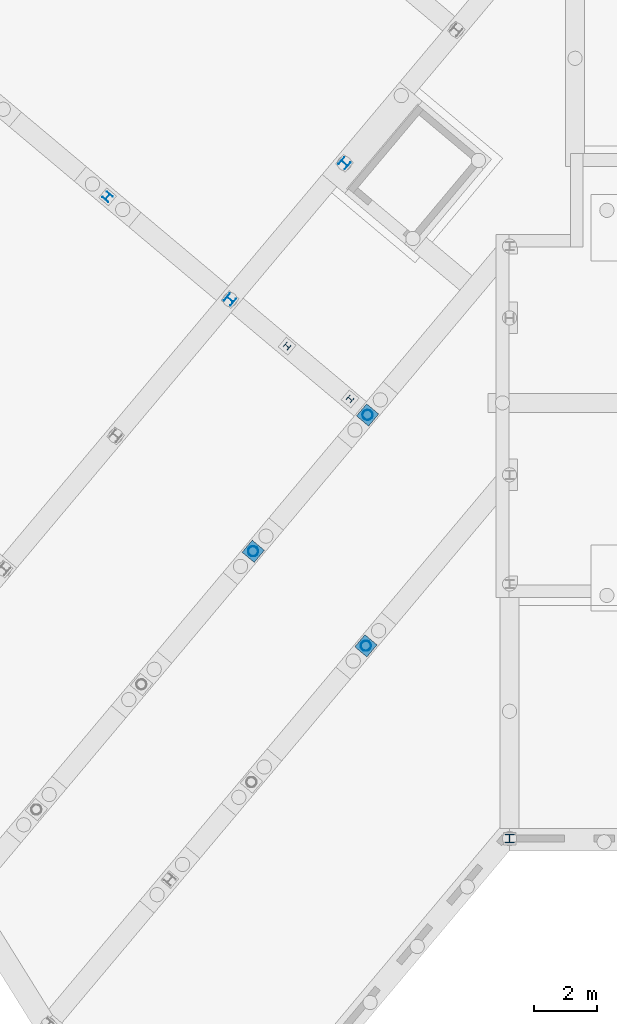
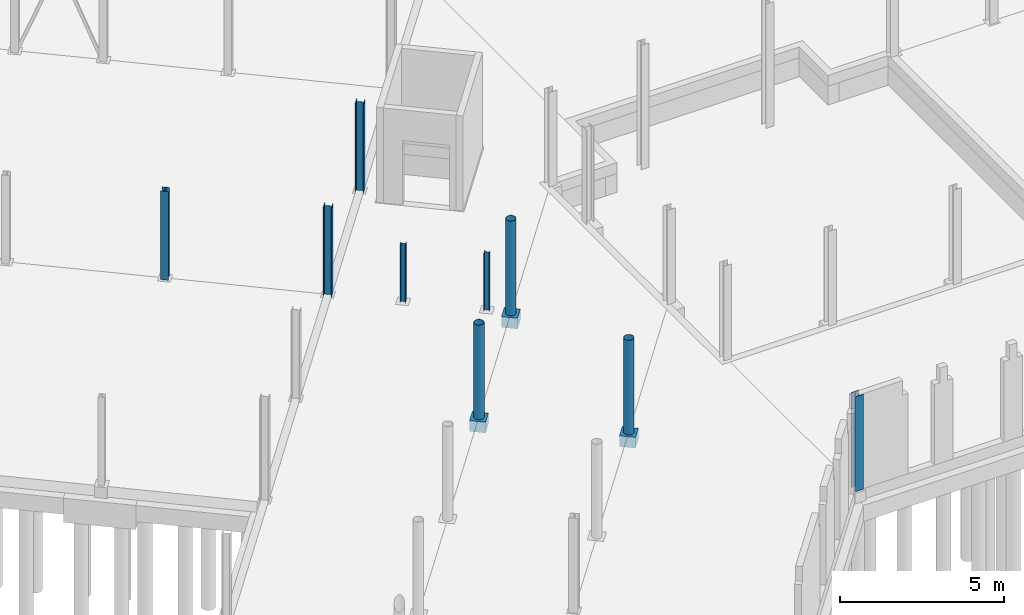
# One storey, part 7 of 26: 12 columns.
"""IFC2X3 building model written with IfcOpenShell, lengths in millimetres."""

import ifcopenshell
import ifcopenshell.guid

model = None  # the IFC model being written
_history = None  # IfcOwnerHistory: only IFC2X3 demands one
_inside = {}  # id of a spatial element -> (the spatial element, [elements in it])
_under = {}  # id of a project, library or spatial element -> (it, [spatial elements below it])
_declared = {}  # id of a project -> (the project, [libraries it declares])
_typed = {}  # id of a type object -> (the type object, [elements of that type])
_made_of = {}  # id of a material, layer set ... -> (it, [elements and type objects made of it])


def new_model(schema):
    """Start an empty IFC model of exactly this schema.

    Asked for "IFC4X3", IfcOpenShell would pick the latest addendum, in which some entities
    have other attributes; the version numbers below select the first issue.
    IFC2X3 requires an IfcOwnerHistory on every rooted entity: one is made here for all.
    """
    global model, _history
    if schema == "IFC4X3":
        model = ifcopenshell.file(schema_version=(4, 3, 0, 0))
    else:
        model = ifcopenshell.file(schema=schema)
    _inside.clear()
    _under.clear()
    _declared.clear()
    _typed.clear()
    _made_of.clear()
    _history = None
    if model.schema == "IFC2X3":
        org = make("IfcOrganization", Name="unknown")
        user = make(
            "IfcPersonAndOrganization",
            ThePerson=make("IfcPerson", FamilyName="unknown"),
            TheOrganization=org,
        )
        app = make(
            "IfcApplication",
            ApplicationDeveloper=org,
            Version="unknown",
            ApplicationFullName="unknown",
            ApplicationIdentifier="unknown",
        )
        _history = make(
            "IfcOwnerHistory",
            OwningUser=user,
            OwningApplication=app,
            ChangeAction="ADDED",
            CreationDate=0,
        )
    return model


def make(cls, **values):
    """One entity of the class cls with the attributes given. An attribute that is None is left unset."""
    return model.create_entity(
        cls, **{name: value for name, value in values.items() if value is not None}
    )


def entity(cls, *values):
    """Any entity or typed value of the class cls, its attributes in the order of the schema. None: left unset."""
    e = model.create_entity(cls)
    for i, value in enumerate(values):
        if value is not None:
            e[i] = value
    return e


def rooted(cls, **values):
    """An entity with a GlobalId (a new one), such as an element, a storey or a relation."""
    return make(cls, GlobalId=ifcopenshell.guid.new(), OwnerHistory=_history, **values)


def si_unit(unit_type, name, prefix=None):
    """IfcSIUnit, for example si_unit("LENGTHUNIT", "METRE", prefix="MILLI")."""
    return make("IfcSIUnit", UnitType=unit_type, Prefix=prefix, Name=name)


def converted_unit(unit_type, name, factor, base, dimensions=None, offset=None):
    """IfcConversionBasedUnit, such as the inch: factor (a typed value) times the base unit."""
    return make(
        "IfcConversionBasedUnit"
        if offset is None
        else "IfcConversionBasedUnitWithOffset",
        ConversionOffset=offset,
        Dimensions=None
        if dimensions is None
        else entity("IfcDimensionalExponents", *dimensions),
        UnitType=unit_type,
        Name=name,
        ConversionFactor=make(
            "IfcMeasureWithUnit", ValueComponent=factor, UnitComponent=base
        ),
    )


def derived_unit(unit_type, elements):
    """IfcDerivedUnit: a product of units, each with its exponent."""
    return make(
        "IfcDerivedUnit",
        Elements=[
            make("IfcDerivedUnitElement", Unit=unit, Exponent=power)
            for unit, power in elements
        ],
        UnitType=unit_type,
    )


def assignment(units):
    """IfcUnitAssignment: the units of a project."""
    return None if units is None else make("IfcUnitAssignment", Units=units)


def point(xyz):
    """IfcCartesianPoint."""
    return None if xyz is None else make("IfcCartesianPoint", Coordinates=xyz)


def direction(xyz):
    """IfcDirection."""
    return None if xyz is None else make("IfcDirection", DirectionRatios=xyz)


def frame(location, z_axis=None, x_axis=None):
    """IfcAxis2Placement3D, a coordinate frame: its origin and axes. An axis left out is left unset."""
    return make(
        "IfcAxis2Placement3D",
        Location=point(location),
        Axis=direction(z_axis),
        RefDirection=direction(x_axis),
    )


def frame_2d(location, x_axis=None):
    """IfcAxis2Placement2D, a coordinate frame in the plane: its origin and x axis."""
    return make(
        "IfcAxis2Placement2D", Location=point(location), RefDirection=direction(x_axis)
    )


def origin():
    """The frame at (0, 0, 0) with its axes left unset."""
    return frame((0.0, 0.0, 0.0))


def origin_2d_with_axis():
    """The frame at (0, 0) in the plane with the x axis (1, 0) written out."""
    return frame_2d((0.0, 0.0), x_axis=(1.0, 0.0))


def place(relative_to, where):
    """IfcLocalPlacement: puts the frame where relative to a parent placement (None: the world)."""
    return make(
        "IfcLocalPlacement", PlacementRelTo=relative_to, RelativePlacement=where
    )


def context(
    kind, dimensions, precision=None, world=None, true_north=None, identifier=None
):
    """IfcGeometricRepresentationContext, for example the 3D "Model" context."""
    return make(
        "IfcGeometricRepresentationContext",
        ContextIdentifier=identifier,
        ContextType=kind,
        CoordinateSpaceDimension=dimensions,
        Precision=precision,
        WorldCoordinateSystem=world,
        TrueNorth=true_north,
    )


def subcontext(parent, identifier, kind, view, scale=None):
    """IfcGeometricRepresentationSubContext, for example "Body" below "Model"."""
    return make(
        "IfcGeometricRepresentationSubContext",
        ContextIdentifier=identifier,
        ContextType=kind,
        ParentContext=parent,
        TargetScale=scale,
        TargetView=view,
    )


def project(units=None, contexts=None):
    """IfcProject with its units and contexts."""
    return rooted(
        "IfcProject",
        Name="project",
        RepresentationContexts=contexts,
        UnitsInContext=assignment(units),
    )


def spatial(cls, under=None, at=None, **own):
    """A site, building, storey or space (cls), placed at a placement, below another one or the project."""
    s = rooted(cls, ObjectPlacement=at, **own)
    if under is not None:
        _under.setdefault(under.id(), (under, []))[1].append(s)
    return s


def profile(cls, at=None, kind="AREA", **sizes):
    """A parametric profile (cls). Its sizes go by their IFC names, for example OverallWidth=200.0."""
    return make(cls, ProfileType=kind, Position=at, **sizes)


def rectangle(**sizes):
    """IfcRectangleProfileDef."""
    return profile("IfcRectangleProfileDef", **sizes)


def hollow_circle(**sizes):
    """IfcCircleHollowProfileDef."""
    return profile("IfcCircleHollowProfileDef", **sizes)


def i_section(**sizes):
    """IfcIShapeProfileDef."""
    return profile("IfcIShapeProfileDef", **sizes)


def extrude(swept, where, along, depth):
    """IfcExtrudedAreaSolid: the profile swept, set in the frame where, extruded along a direction by depth."""
    return make(
        "IfcExtrudedAreaSolid",
        SweptArea=swept,
        Position=where,
        ExtrudedDirection=direction(along),
        Depth=depth,
    )


def shape(context_of_items, identifier, shape_type, items):
    """IfcShapeRepresentation: the items that make up one representation, for example the "Body"."""
    return make(
        "IfcShapeRepresentation",
        ContextOfItems=context_of_items,
        RepresentationIdentifier=identifier,
        RepresentationType=shape_type,
        Items=items,
    )


def source(mapping_origin, context_of_items, identifier, shape_type, items):
    """IfcRepresentationMap: a shape defined once, which mapped items show again and again."""
    return make(
        "IfcRepresentationMap",
        MappingOrigin=mapping_origin,
        MappedRepresentation=shape(context_of_items, identifier, shape_type, items),
    )


def transform(
    local_origin,
    x_axis=None,
    y_axis=None,
    z_axis=None,
    scale=None,
    scale2=None,
    scale3=None,
    uniform=True,
):
    """IfcCartesianTransformationOperator3D, or its non-uniform kind. x_axis, y_axis, z_axis: its Axis1, 2, 3."""
    if uniform:
        return make(
            "IfcCartesianTransformationOperator3D",
            Axis1=direction(x_axis),
            Axis2=direction(y_axis),
            LocalOrigin=point(local_origin),
            Scale=scale,
            Axis3=direction(z_axis),
        )
    return make(
        "IfcCartesianTransformationOperator3DnonUniform",
        Axis1=direction(x_axis),
        Axis2=direction(y_axis),
        LocalOrigin=point(local_origin),
        Scale=scale,
        Axis3=direction(z_axis),
        Scale2=scale2,
        Scale3=scale3,
    )


def mapped(mapping_source, mapping_target):
    """IfcMappedItem: shows the shape of a source again, moved by a transform."""
    return make(
        "IfcMappedItem", MappingSource=mapping_source, MappingTarget=mapping_target
    )


def material(Name=None, Category=None):
    """IfcMaterial."""
    return make("IfcMaterial", Name=Name, Category=Category)


def made_of(thing, what):
    """Note that an element or type object is made of a material, layer set ...; save() writes the relation."""
    if what is not None:
        _made_of.setdefault(what.id(), (what, []))[1].append(thing)
    return thing


def type_object(cls, material=None, **own):
    """A type object (cls), such as IfcWallType, which elements share."""
    return made_of(rooted(cls, **own), material)


def type_shapes(of_type, sources):
    """Give a type object the sources (RepresentationMaps) that its elements show as mapped items."""
    of_type.RepresentationMaps = sources


def element(
    cls,
    number,
    at=None,
    inside=None,
    cuts=None,
    type_object=None,
    material=None,
    context=None,
    identifier="Body",
    shape_type=None,
    held_by="IfcProductDefinitionShape",
    body=None,
    shapes=None,
    **own,
):
    """One element of the class cls, such as IfcWall. Its Tag is "e" and its number.

    at: its placement. inside: the storey or other place that contains it. cuts: it is an
    opening in that element (IfcRelVoidsElement). A single representation is given by context,
    identifier, shape_type and body (its items); several are given by shapes. held_by: the class
    of the entity that holds the representations. save() writes the other relations.
    """
    e = rooted(cls, Tag="e%d" % number, ObjectPlacement=at, **own)
    if body is not None:
        shapes = [shape(context, identifier, shape_type, body)]
    if shapes is not None:
        e.Representation = make(held_by, Representations=shapes)
    if inside is not None:
        _inside.setdefault(inside.id(), (inside, []))[1].append(e)
    if cuts is not None:
        rooted(
            "IfcRelVoidsElement", RelatingBuildingElement=cuts, RelatedOpeningElement=e
        )
    if type_object is not None:
        _typed.setdefault(type_object.id(), (type_object, []))[1].append(e)
    return made_of(e, material)


def aggregate(whole, parts):
    """IfcRelAggregates: a whole, such as a stair, and the parts it consists of."""
    return rooted("IfcRelAggregates", RelatingObject=whole, RelatedObjects=parts)


def save(model, path):
    """Write the relations noted so far, then the file.

    IfcRelAggregates (storeys below a building ...), IfcRelContainedInSpatialStructure (elements
    in a storey), IfcRelDefinesByType, IfcRelAssociatesMaterial and IfcRelDeclares: one each for
    every whole, place, type object, material and project.
    """
    for whole, parts in _under.values():
        aggregate(whole, parts)
    for where, things in _inside.values():
        rooted(
            "IfcRelContainedInSpatialStructure",
            RelatedElements=things,
            RelatingStructure=where,
        )
    for kind, things in _typed.values():
        rooted("IfcRelDefinesByType", RelatedObjects=things, RelatingType=kind)
    for what, things in _made_of.values():
        rooted("IfcRelAssociatesMaterial", RelatedObjects=things, RelatingMaterial=what)
    for by, libraries in _declared.values():
        rooted("IfcRelDeclares", RelatingContext=by, RelatedDefinitions=libraries)
    model.write(path)


model = new_model("IFC2X3")

# Units and contexts
model_context = context("Model", 3, precision=0.01, world=origin(), true_north=direction((6.123031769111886e-17, 1.0)))
body_context = subcontext(model_context, "Body", "Model", "MODEL_VIEW")
ifc_project = project(units=[si_unit("LENGTHUNIT", "METRE", prefix="MILLI"), si_unit("AREAUNIT", "SQUARE_METRE"), si_unit("VOLUMEUNIT", "CUBIC_METRE"), derived_unit("MASSDENSITYUNIT", [(si_unit("MASSUNIT", "GRAM", prefix="KILO"), 1), (si_unit("LENGTHUNIT", "METRE"), -3)]), si_unit("MASSUNIT", "GRAM", prefix="KILO"), converted_unit("PLANEANGLEUNIT", "DEGREE", entity("IfcPlaneAngleMeasure", 0.017453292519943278), si_unit("PLANEANGLEUNIT", "RADIAN"), dimensions=[0, 0, 0, 0, 0, 0, 0])], contexts=[model_context])

# Site, building, storey
site_placement = place(None, origin())
site = spatial("IfcSite", under=ifc_project, at=site_placement, Name="Default", CompositionType="ELEMENT")
building_placement = place(site_placement, origin())
building = spatial("IfcBuilding", under=site, at=building_placement, Name="AT constructie", CompositionType="ELEMENT")
storey_placement = place(building_placement, origin())
storey = spatial("IfcBuildingStorey", under=building, at=storey_placement, Name="00 begane grond", CompositionType="ELEMENT", Elevation=-1.0828671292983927e-12)

# Columns
ifc_material_1 = material(Name="h2_staal_S355")
column_type_1 = type_object("IfcColumnType", Name="kolom_gen_HEA280", PredefinedType="COLUMN", material=ifc_material_1)
shared_shape_1 = source(origin(), body_context, "Body", "SweptSolid", [
    extrude(i_section(OverallWidth=280.0000000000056, OverallDepth=269.99999999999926, WebThickness=7.999999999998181, FlangeThickness=12.99999999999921, FilletRadius=24.0, at=frame_2d((0.0, -2.1600499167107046e-12), x_axis=(1.0, 0.0))), frame((41146.87463111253, 11772.543508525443, -50.0)), (0.0, 0.0, 1.0), 3544.000000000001),
])
type_shapes(column_type_1, [shared_shape_1])
column_1_placement = place(storey_placement, origin())
element("IfcColumn", 1, at=column_1_placement, inside=storey, type_object=column_type_1, material=ifc_material_1, Name="NLRS_28_SC_TLB_kolom HEA_gen_AT:kolom_gen_HEA280", ObjectType="NLRS_28_SC_TLB_kolom HEA_gen_AT:kolom_gen_HEA280", context=body_context, shape_type="MappedRepresentation", body=[
    mapped(shared_shape_1, transform((0.0, 0.0, 0.0), scale=1.0)),
])
column_type_2 = type_object("IfcColumnType", Name="kolom_gen_ø323.9x8", PredefinedType="COLUMN", material=ifc_material_1)
shared_shape_2 = source(origin(), body_context, "Body", "SweptSolid", [
    extrude(hollow_circle(Radius=161.95, WallThickness=8.0, at=origin_2d_with_axis()), frame((36605.484880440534, 17864.601907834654, -50.0), z_axis=(0.0, 0.0, 1.0), x_axis=(-0.6427876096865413, -0.7660444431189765, 0.0)), (0.0, 0.0, 1.0), 3529.0000000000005),
])
type_shapes(column_type_2, [shared_shape_2])
column_2_placement = place(storey_placement, origin())
element("IfcColumn", 2, at=column_2_placement, inside=storey, type_object=column_type_2, material=ifc_material_1, Name="NLRS_28_SC_TLB_kolom buis_gen_AT:kolom_gen_ø323.9x8", ObjectType="NLRS_28_SC_TLB_kolom buis_gen_AT:kolom_gen_ø323.9x8", context=body_context, shape_type="MappedRepresentation", body=[
    mapped(shared_shape_2, transform((0.0, 0.0, 0.0), scale=1.0)),
])
column_type_3 = type_object("IfcColumnType", Name="kolom_gen_ø323.9x8", PredefinedType="COLUMN", material=ifc_material_1)
shared_shape_3 = source(origin(), body_context, "Body", "SweptSolid", [
    extrude(hollow_circle(Radius=161.95, WallThickness=8.0, at=origin_2d_with_axis()), frame((33043.37821993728, 20853.56429287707, -50.0), z_axis=(0.0, 0.0, 1.0), x_axis=(0.642787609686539, 0.7660444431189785, 0.0)), (0.0, 0.0, 1.0), 3528.9999999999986),
])
type_shapes(column_type_3, [shared_shape_3])
column_3_placement = place(storey_placement, origin())
element("IfcColumn", 3, at=column_3_placement, inside=storey, type_object=column_type_3, material=ifc_material_1, Name="NLRS_28_SC_TLB_kolom buis_gen_AT:kolom_gen_ø323.9x8", ObjectType="NLRS_28_SC_TLB_kolom buis_gen_AT:kolom_gen_ø323.9x8", context=body_context, shape_type="MappedRepresentation", body=[
    mapped(shared_shape_3, transform((0.0, 0.0, 0.0), scale=1.0)),
])
column_type_4 = type_object("IfcColumnType", Name="kolom_gen_ø323.9x8", PredefinedType="COLUMN", material=ifc_material_1)
shared_shape_4 = source(origin(), body_context, "Body", "SweptSolid", [
    extrude(hollow_circle(Radius=161.95, WallThickness=8.0, at=origin_2d_with_axis()), frame((36659.05852442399, 25162.564285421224, -50.0), z_axis=(0.0, 0.0, 1.0), x_axis=(0.642787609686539, 0.7660444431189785, 0.0)), (0.0, 0.0, 1.0), 3528.9999999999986),
])
type_shapes(column_type_4, [shared_shape_4])
column_4_placement = place(storey_placement, origin())
element("IfcColumn", 4, at=column_4_placement, inside=storey, type_object=column_type_4, material=ifc_material_1, Name="NLRS_28_SC_TLB_kolom buis_gen_AT:kolom_gen_ø323.9x8", ObjectType="NLRS_28_SC_TLB_kolom buis_gen_AT:kolom_gen_ø323.9x8", context=body_context, shape_type="MappedRepresentation", body=[
    mapped(shared_shape_4, transform((0.0, 0.0, 0.0), scale=1.0)),
])
column_type_5 = type_object("IfcColumnType", Name="kolom_gen_HEA280", PredefinedType="COLUMN", material=ifc_material_1)
shared_shape_5 = source(origin(), body_context, "Body", "SweptSolid", [
    extrude(i_section(OverallWidth=279.9999999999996, OverallDepth=269.99999999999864, WebThickness=8.000000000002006, FlangeThickness=13.000000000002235, FilletRadius=24.0, at=frame_2d((-2.7853275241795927e-12, 3.325340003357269e-12), x_axis=(1.0, 0.0))), frame((32311.75630972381, 28810.383970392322, -50.0), z_axis=(0.0, 0.0, 1.0), x_axis=(-0.6427876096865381, -0.766044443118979, 0.0)), (0.0, 0.0, 1.0), 3307.9999999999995),
])
type_shapes(column_type_5, [shared_shape_5])
column_5_placement = place(storey_placement, origin())
element("IfcColumn", 5, at=column_5_placement, inside=storey, type_object=column_type_5, material=ifc_material_1, Name="NLRS_28_SC_TLB_kolom HEA_gen_AT:kolom_gen_HEA280", ObjectType="NLRS_28_SC_TLB_kolom HEA_gen_AT:kolom_gen_HEA280", context=body_context, shape_type="MappedRepresentation", body=[
    mapped(shared_shape_5, transform((0.0, 0.0, 0.0), scale=1.0)),
])
column_type_6 = type_object("IfcColumnType", Name="kolom_gen_HEA280", PredefinedType="COLUMN", material=ifc_material_1)
shared_shape_6 = source(origin(), body_context, "Body", "SweptSolid", [
    extrude(i_section(OverallWidth=279.9999999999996, OverallDepth=269.99999999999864, WebThickness=8.000000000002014, FlangeThickness=13.000000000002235, FilletRadius=24.0, at=frame_2d((-6.0964566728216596e-12, 5.258016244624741e-13), x_axis=(1.0, 0.0))), frame((35927.436614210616, 33119.38396293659, -50.0), z_axis=(0.0, 0.0, 1.0), x_axis=(-0.6427876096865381, -0.766044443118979, 0.0)), (0.0, 0.0, 1.0), 3307.9999999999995),
])
type_shapes(column_type_6, [shared_shape_6])
column_6_placement = place(storey_placement, origin())
element("IfcColumn", 6, at=column_6_placement, inside=storey, type_object=column_type_6, material=ifc_material_1, Name="NLRS_28_SC_TLB_kolom HEA_gen_AT:kolom_gen_HEA280", ObjectType="NLRS_28_SC_TLB_kolom HEA_gen_AT:kolom_gen_HEA280", context=body_context, shape_type="MappedRepresentation", body=[
    mapped(shared_shape_6, transform((0.0, 0.0, 0.0), scale=1.0)),
])
column_type_7 = type_object("IfcColumnType", Name="kolom_gen_HEA240", PredefinedType="COLUMN", material=ifc_material_1)
shared_shape_7 = source(origin(), body_context, "Body", "SweptSolid", [
    extrude(i_section(OverallWidth=240.0000000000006, OverallDepth=229.9999999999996, WebThickness=7.500000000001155, FlangeThickness=12.000000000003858, FilletRadius=21.0, at=frame_2d((-1.3926637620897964e-12, 1.6555645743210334e-12), x_axis=(1.0, 0.0))), frame((28439.401649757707, 32059.67533735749, -50.0), z_axis=(0.0, 0.0, 1.0), x_axis=(0.7660444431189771, -0.6427876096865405, 0.0)), (0.0, 0.0, 1.0), 3307.9999999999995),
])
type_shapes(column_type_7, [shared_shape_7])
column_7_placement = place(storey_placement, origin())
element("IfcColumn", 7, at=column_7_placement, inside=storey, type_object=column_type_7, material=ifc_material_1, Name="NLRS_28_SC_TLB_kolom HEA_gen_AT:kolom_gen_HEA240", ObjectType="NLRS_28_SC_TLB_kolom HEA_gen_AT:kolom_gen_HEA240", context=body_context, shape_type="MappedRepresentation", body=[
    mapped(shared_shape_7, transform((0.0, 0.0, 0.0), scale=1.0)),
])
column_type_8 = type_object("IfcColumnType", Name="kolom_gen_HEA180", PredefinedType="COLUMN", material=ifc_material_1)
shared_shape_8 = source(origin(), body_context, "Body", "SweptSolid", [
    extrude(i_section(OverallWidth=180.00000000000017, OverallDepth=171.0000000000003, WebThickness=5.999999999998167, FlangeThickness=9.499999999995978, FilletRadius=15.000000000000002, at=frame_2d((-2.7853275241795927e-12, 3.311129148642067e-12), x_axis=(1.0, 0.0))), frame((34112.96671416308, 27339.92504345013, -50.0), z_axis=(0.0, 0.0, 1.0), x_axis=(-0.6427876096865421, -0.7660444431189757, 0.0)), (0.0, 0.0, 1.0), 2163.999999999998),
])
type_shapes(column_type_8, [shared_shape_8])
column_8_placement = place(storey_placement, origin())
element("IfcColumn", 8, at=column_8_placement, inside=storey, type_object=column_type_8, material=ifc_material_1, Name="NLRS_28_SC_TLB_kolom HEA_gen_AT:kolom_gen_HEA180", ObjectType="NLRS_28_SC_TLB_kolom HEA_gen_AT:kolom_gen_HEA180", context=body_context, shape_type="MappedRepresentation", body=[
    mapped(shared_shape_8, transform((0.0, 0.0, 0.0), scale=1.0)),
])
column_type_9 = type_object("IfcColumnType", Name="kolom_gen_HEA180", PredefinedType="COLUMN", material=ifc_material_1)
shared_shape_9 = source(origin(), body_context, "Body", "SweptSolid", [
    extrude(i_section(OverallWidth=180.00000000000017, OverallDepth=171.00000000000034, WebThickness=5.999999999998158, FlangeThickness=9.499999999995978, FilletRadius=15.000000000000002, at=frame_2d((-3.318234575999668e-12, -2.7782220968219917e-12), x_axis=(1.0, 0.0))), frame((36104.682266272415, 25668.677258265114, -50.0), z_axis=(0.0, 0.0, 1.0), x_axis=(-0.6427876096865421, -0.7660444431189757, 0.0)), (0.0, 0.0, 1.0), 2163.999999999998),
])
type_shapes(column_type_9, [shared_shape_9])
column_9_placement = place(storey_placement, origin())
element("IfcColumn", 9, at=column_9_placement, inside=storey, type_object=column_type_9, material=ifc_material_1, Name="NLRS_28_SC_TLB_kolom HEA_gen_AT:kolom_gen_HEA180", ObjectType="NLRS_28_SC_TLB_kolom HEA_gen_AT:kolom_gen_HEA180", context=body_context, shape_type="MappedRepresentation", body=[
    mapped(shared_shape_9, transform((0.0, 0.0, 0.0), scale=1.0)),
])
ifc_material_2 = material(Name="f2_beton ihwg_gen")
column_type_10 = type_object("IfcColumnType", Name="opstorting vierkant_gen_lxb 500x500", PredefinedType="COLUMN", material=ifc_material_2)
shared_shape_10 = source(origin(), body_context, "Body", "SweptSolid", [
    extrude(rectangle(XDim=499.99999999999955, YDim=499.9999999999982, at=frame_2d((-1.0132339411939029e-11, -1.4210854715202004e-12), x_axis=(1.0, 0.0))), frame((36605.48488044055, 17864.60190783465, -450.0), z_axis=(0.0, 0.0, 1.0), x_axis=(-0.7660444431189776, 0.6427876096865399, 0.0)), (0.0, 0.0, 1.0), 399.99999999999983),
])
type_shapes(column_type_10, [shared_shape_10])
column_10_placement = place(storey_placement, origin())
element("IfcColumn", 10, at=column_10_placement, inside=storey, type_object=column_type_10, material=ifc_material_2, Name="NLRS_16_SC_TLB_opstorting beton_gen_AT:opstorting vierkant_gen_lxb 500x500", ObjectType="NLRS_16_SC_TLB_opstorting beton_gen_AT:opstorting vierkant_gen_lxb 500x500", context=body_context, shape_type="MappedRepresentation", body=[
    mapped(shared_shape_10, transform((0.0, 0.0, 0.0), scale=1.0)),
])
column_type_11 = type_object("IfcColumnType", Name="opstorting vierkant_gen_lxb 500x500", PredefinedType="COLUMN", material=ifc_material_2)
shared_shape_11 = source(origin(), body_context, "Body", "SweptSolid", [
    extrude(rectangle(XDim=499.9999999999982, YDim=500.00000000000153, at=frame_2d((-3.311129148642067e-12, -2.7711166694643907e-12), x_axis=(1.0, 0.0))), frame((36659.058524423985, 25162.564285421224, -450.0), z_axis=(0.0, 0.0, 1.0), x_axis=(-0.766044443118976, 0.6427876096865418, 0.0)), (0.0, 0.0, 1.0), 399.99999999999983),
])
type_shapes(column_type_11, [shared_shape_11])
column_11_placement = place(storey_placement, origin())
element("IfcColumn", 11, at=column_11_placement, inside=storey, type_object=column_type_11, material=ifc_material_2, Name="NLRS_16_SC_TLB_opstorting beton_gen_AT:opstorting vierkant_gen_lxb 500x500", ObjectType="NLRS_16_SC_TLB_opstorting beton_gen_AT:opstorting vierkant_gen_lxb 500x500", context=body_context, shape_type="MappedRepresentation", body=[
    mapped(shared_shape_11, transform((0.0, 0.0, 0.0), scale=1.0)),
])
column_type_12 = type_object("IfcColumnType", Name="opstorting vierkant_gen_lxb 500x500", PredefinedType="COLUMN", material=ifc_material_2)
shared_shape_12 = source(origin(), body_context, "Body", "SweptSolid", [
    extrude(rectangle(XDim=499.99999999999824, YDim=500.00000000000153, at=frame_2d((-6.650680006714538e-12, -5.5706550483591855e-12), x_axis=(1.0, 0.0))), frame((33043.37821993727, 20853.564292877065, -450.0), z_axis=(0.0, 0.0, 1.0), x_axis=(-0.7660444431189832, 0.6427876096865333, 0.0)), (0.0, 0.0, 1.0), 399.99999999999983),
])
type_shapes(column_type_12, [shared_shape_12])
column_12_placement = place(storey_placement, origin())
element("IfcColumn", 12, at=column_12_placement, inside=storey, type_object=column_type_12, material=ifc_material_2, Name="NLRS_16_SC_TLB_opstorting beton_gen_AT:opstorting vierkant_gen_lxb 500x500", ObjectType="NLRS_16_SC_TLB_opstorting beton_gen_AT:opstorting vierkant_gen_lxb 500x500", context=body_context, shape_type="MappedRepresentation", body=[
    mapped(shared_shape_12, transform((0.0, 0.0, 0.0), scale=1.0)),
])

save(model, "model.ifc")
